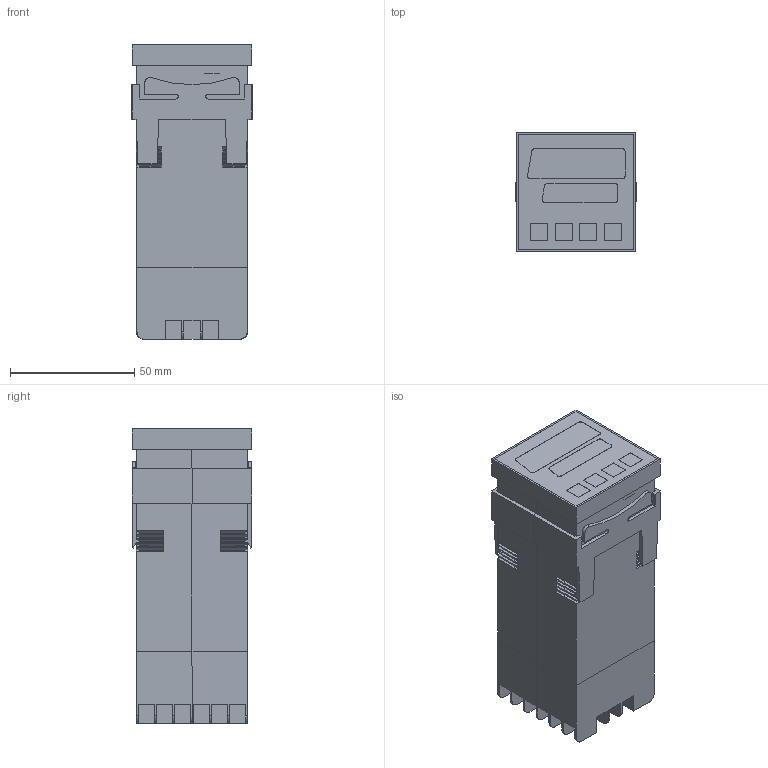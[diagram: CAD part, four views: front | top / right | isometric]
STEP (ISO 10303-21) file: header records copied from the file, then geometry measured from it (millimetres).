
FILE_DESCRIPTION( ( '' ), '1' );
FILE_NAME( '//Server/Users/WC000/WC011/WORKING/DEV/V 1-00/P6100/P6X00 - CC - 01.stp', '2016-12-03T18:59:51', ( 'KPM' ), ( 'KMC Design' ), 'PSStep 17.0.49', ' ', ' ' );
FILE_SCHEMA( ( 'AUTOMOTIVE_DESIGN { 1 0 10303 214 1 1 1 1 }' ) );
Length unit declared in the file: millimetre
Products named in the file (5): Assem1; 18576 - CC - 01; 18581 - CC - 01; Clamp P6X00 - CC - 01; Overlay P6100 - CC - 01
Assembly tree (4 placements, depth 2):
  Assem1
    18576 - CC - 01
    18581 - CC - 01
    Clamp P6X00 - CC - 01
    Overlay P6100 - CC - 01
Bounding box: 48.25 x 48 x 118.4 mm (x, y, z)
Volume: 231872.6 mm3; surface area: 45144.2 mm2
Topology: 4 solids, 12 shells, 495 faces, 1343 edges, 888 vertices
Faces by surface type: plane 425, extrusion 32, cylinder 28, cone 10
Entity records: 20790 total; most frequent: CARTESIAN_POINT 4446, ORIENTED_EDGE 2686, DIRECTION 2258, EDGE_CURVE 1343, VECTOR 1234, LINE 1202, VERTEX_POINT 888, EDGE_LOOP 513
